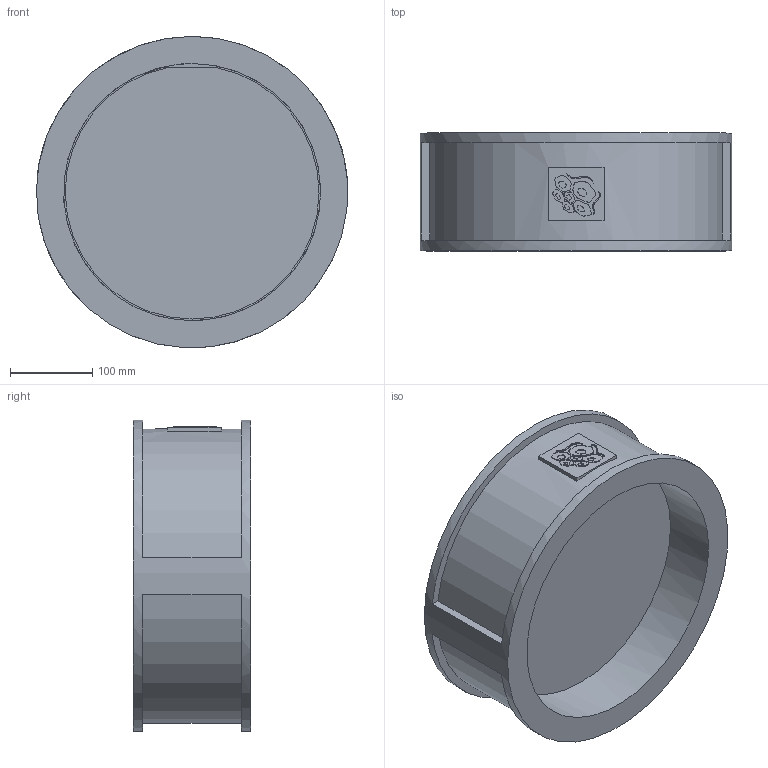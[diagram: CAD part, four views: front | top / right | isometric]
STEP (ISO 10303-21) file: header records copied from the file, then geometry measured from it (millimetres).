
FILE_DESCRIPTION(('STEP AP203'), '1');
FILE_NAME('3D_400-300-16_1', '', ('UNSPECIFIED'), ('UNSPECIFIED'), 'C3D Converter', 'C3D Toolkit', '');
FILE_SCHEMA(('CONFIG_CONTROL_DESIGN'));
Length unit declared in the file: millimetre
Bounding box: 377.66 x 143 x 377.73 mm (x, y, z)
Volume: 6121817.1 mm3; surface area: 616178.5 mm2
Topology: 1 solids, 1 shells, 872 faces, 2561 edges, 1713 vertices
Faces by surface type: plane 857, cylinder 12, bspline 2, cone 1
Full cylindrical faces by diameter (mm): 29.9 x1, 39.9 x1, 44 x1, 262 x1, 284 x1, 293.9 x1, 312 x1, 378 x1
Entity records: 35796 total; most frequent: CARTESIAN_POINT 5572, ORIENTED_EDGE 5098, DIRECTION 4335, EDGE_CURVE 2549, LINE 2487, VECTOR 2487, VERTEX_POINT 1711, AXIS2_PLACEMENT_3D 924
